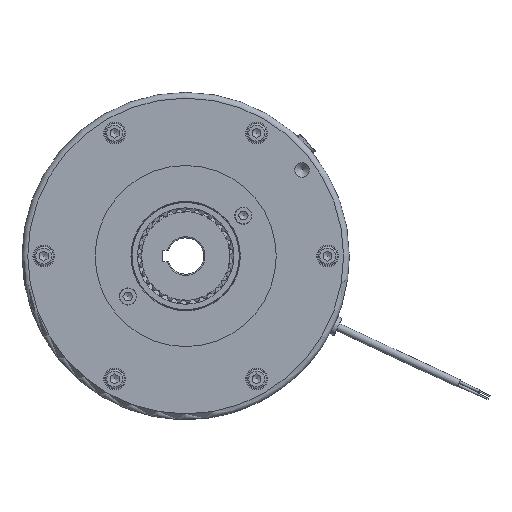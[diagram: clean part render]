
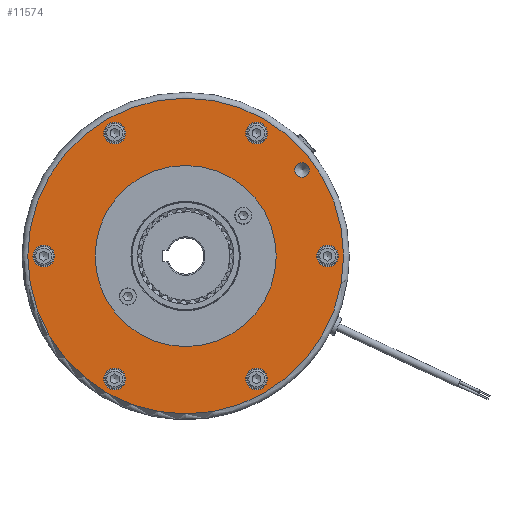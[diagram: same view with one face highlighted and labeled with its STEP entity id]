
A CAD part, left-side view. The second image highlights one B-rep face of the part: STEP entity #11574.
In plain terms, the highlighted planar face has unit normal (-1, 0, 0).
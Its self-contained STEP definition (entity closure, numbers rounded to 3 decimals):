
#798=FACE_BOUND('',#2666,.T.);
#799=FACE_BOUND('',#2667,.T.);
#800=FACE_BOUND('',#2668,.T.);
#801=FACE_BOUND('',#2669,.T.);
#802=FACE_BOUND('',#2670,.T.);
#803=FACE_BOUND('',#2671,.T.);
#804=FACE_BOUND('',#2672,.T.);
#805=FACE_BOUND('',#2673,.T.);
#1310=CIRCLE('',#12647,5.);
#1311=CIRCLE('',#12648,5.);
#1317=CIRCLE('',#12658,109.);
#1318=CIRCLE('',#12659,109.);
#1319=CIRCLE('',#12661,62.5);
#1320=CIRCLE('',#12662,62.5);
#1321=CIRCLE('',#12663,7.5);
#1322=CIRCLE('',#12664,7.5);
#1323=CIRCLE('',#12665,7.5);
#1324=CIRCLE('',#12666,7.5);
#1325=CIRCLE('',#12667,7.5);
#1326=CIRCLE('',#12668,7.5);
#1327=CIRCLE('',#12669,7.5);
#1328=CIRCLE('',#12670,7.5);
#1329=CIRCLE('',#12671,7.5);
#1330=CIRCLE('',#12672,7.5);
#1331=CIRCLE('',#12673,7.5);
#1332=CIRCLE('',#12674,7.5);
#2001=FACE_OUTER_BOUND('',#2665,.T.);
#2665=EDGE_LOOP('',(#8609,#8610));
#2666=EDGE_LOOP('',(#8611,#8612));
#2667=EDGE_LOOP('',(#8613,#8614));
#2668=EDGE_LOOP('',(#8615,#8616));
#2669=EDGE_LOOP('',(#8617,#8618));
#2670=EDGE_LOOP('',(#8619,#8620));
#2671=EDGE_LOOP('',(#8621,#8622));
#2672=EDGE_LOOP('',(#8623,#8624));
#2673=EDGE_LOOP('',(#8625,#8626));
#4756=VERTEX_POINT('',#19065);
#4757=VERTEX_POINT('',#19066);
#4762=VERTEX_POINT('',#19107);
#4763=VERTEX_POINT('',#19109);
#4764=VERTEX_POINT('',#19113);
#4765=VERTEX_POINT('',#19114);
#4766=VERTEX_POINT('',#19117);
#4767=VERTEX_POINT('',#19118);
#4768=VERTEX_POINT('',#19121);
#4769=VERTEX_POINT('',#19122);
#4770=VERTEX_POINT('',#19125);
#4771=VERTEX_POINT('',#19126);
#4772=VERTEX_POINT('',#19129);
#4773=VERTEX_POINT('',#19130);
#4774=VERTEX_POINT('',#19133);
#4775=VERTEX_POINT('',#19134);
#4776=VERTEX_POINT('',#19137);
#4777=VERTEX_POINT('',#19138);
#6166=EDGE_CURVE('',#4756,#4757,#1310,.T.);
#6167=EDGE_CURVE('',#4757,#4756,#1311,.T.);
#6177=EDGE_CURVE('',#4762,#4763,#1317,.T.);
#6178=EDGE_CURVE('',#4763,#4762,#1318,.T.);
#6179=EDGE_CURVE('',#4764,#4765,#1319,.T.);
#6180=EDGE_CURVE('',#4765,#4764,#1320,.T.);
#6181=EDGE_CURVE('',#4766,#4767,#1321,.T.);
#6182=EDGE_CURVE('',#4767,#4766,#1322,.T.);
#6183=EDGE_CURVE('',#4768,#4769,#1323,.T.);
#6184=EDGE_CURVE('',#4769,#4768,#1324,.T.);
#6185=EDGE_CURVE('',#4770,#4771,#1325,.T.);
#6186=EDGE_CURVE('',#4771,#4770,#1326,.T.);
#6187=EDGE_CURVE('',#4772,#4773,#1327,.T.);
#6188=EDGE_CURVE('',#4773,#4772,#1328,.T.);
#6189=EDGE_CURVE('',#4774,#4775,#1329,.T.);
#6190=EDGE_CURVE('',#4775,#4774,#1330,.T.);
#6191=EDGE_CURVE('',#4776,#4777,#1331,.T.);
#6192=EDGE_CURVE('',#4777,#4776,#1332,.T.);
#8609=ORIENTED_EDGE('',*,*,#6178,.F.);
#8610=ORIENTED_EDGE('',*,*,#6177,.F.);
#8611=ORIENTED_EDGE('',*,*,#6166,.T.);
#8612=ORIENTED_EDGE('',*,*,#6167,.T.);
#8613=ORIENTED_EDGE('',*,*,#6179,.T.);
#8614=ORIENTED_EDGE('',*,*,#6180,.T.);
#8615=ORIENTED_EDGE('',*,*,#6181,.T.);
#8616=ORIENTED_EDGE('',*,*,#6182,.T.);
#8617=ORIENTED_EDGE('',*,*,#6183,.T.);
#8618=ORIENTED_EDGE('',*,*,#6184,.T.);
#8619=ORIENTED_EDGE('',*,*,#6185,.T.);
#8620=ORIENTED_EDGE('',*,*,#6186,.T.);
#8621=ORIENTED_EDGE('',*,*,#6187,.T.);
#8622=ORIENTED_EDGE('',*,*,#6188,.T.);
#8623=ORIENTED_EDGE('',*,*,#6189,.T.);
#8624=ORIENTED_EDGE('',*,*,#6190,.T.);
#8625=ORIENTED_EDGE('',*,*,#6191,.T.);
#8626=ORIENTED_EDGE('',*,*,#6192,.T.);
#10557=PLANE('',#12660);
#11574=ADVANCED_FACE('',(#2001,#798,#799,#800,#801,#802,#803,#804,#805),
#10557,.T.);
#12647=AXIS2_PLACEMENT_3D('',#19067,#15007,#15008);
#12648=AXIS2_PLACEMENT_3D('',#19068,#15009,#15010);
#12658=AXIS2_PLACEMENT_3D('',#19110,#15032,#15033);
#12659=AXIS2_PLACEMENT_3D('',#19111,#15034,#15035);
#12660=AXIS2_PLACEMENT_3D('',#19112,#15036,#15037);
#12661=AXIS2_PLACEMENT_3D('',#19115,#15038,#15039);
#12662=AXIS2_PLACEMENT_3D('',#19116,#15040,#15041);
#12663=AXIS2_PLACEMENT_3D('',#19119,#15042,#15043);
#12664=AXIS2_PLACEMENT_3D('',#19120,#15044,#15045);
#12665=AXIS2_PLACEMENT_3D('',#19123,#15046,#15047);
#12666=AXIS2_PLACEMENT_3D('',#19124,#15048,#15049);
#12667=AXIS2_PLACEMENT_3D('',#19127,#15050,#15051);
#12668=AXIS2_PLACEMENT_3D('',#19128,#15052,#15053);
#12669=AXIS2_PLACEMENT_3D('',#19131,#15054,#15055);
#12670=AXIS2_PLACEMENT_3D('',#19132,#15056,#15057);
#12671=AXIS2_PLACEMENT_3D('',#19135,#15058,#15059);
#12672=AXIS2_PLACEMENT_3D('',#19136,#15060,#15061);
#12673=AXIS2_PLACEMENT_3D('',#19139,#15062,#15063);
#12674=AXIS2_PLACEMENT_3D('',#19140,#15064,#15065);
#15007=DIRECTION('center_axis',(1.,0.,0.));
#15008=DIRECTION('ref_axis',(0.,0.,1.));
#15009=DIRECTION('center_axis',(1.,0.,0.));
#15010=DIRECTION('ref_axis',(0.,0.,1.));
#15032=DIRECTION('center_axis',(1.,0.,0.));
#15033=DIRECTION('ref_axis',(0.,-1.,0.));
#15034=DIRECTION('center_axis',(1.,0.,0.));
#15035=DIRECTION('ref_axis',(0.,-1.,0.));
#15036=DIRECTION('center_axis',(-1.,0.,0.));
#15037=DIRECTION('ref_axis',(0.,0.,1.));
#15038=DIRECTION('center_axis',(1.,0.,0.));
#15039=DIRECTION('ref_axis',(0.,1.,0.));
#15040=DIRECTION('center_axis',(1.,0.,0.));
#15041=DIRECTION('ref_axis',(0.,1.,0.));
#15042=DIRECTION('center_axis',(1.,0.,0.));
#15043=DIRECTION('ref_axis',(0.,0.,1.));
#15044=DIRECTION('center_axis',(1.,0.,0.));
#15045=DIRECTION('ref_axis',(0.,0.,1.));
#15046=DIRECTION('center_axis',(1.,0.,0.));
#15047=DIRECTION('ref_axis',(0.,-0.866,0.5));
#15048=DIRECTION('center_axis',(1.,0.,0.));
#15049=DIRECTION('ref_axis',(0.,-0.866,0.5));
#15050=DIRECTION('center_axis',(1.,0.,0.));
#15051=DIRECTION('ref_axis',(0.,-0.866,-0.5));
#15052=DIRECTION('center_axis',(1.,0.,0.));
#15053=DIRECTION('ref_axis',(0.,-0.866,-0.5));
#15054=DIRECTION('center_axis',(1.,0.,0.));
#15055=DIRECTION('ref_axis',(0.,0.,-1.));
#15056=DIRECTION('center_axis',(1.,0.,0.));
#15057=DIRECTION('ref_axis',(0.,0.,-1.));
#15058=DIRECTION('center_axis',(1.,0.,0.));
#15059=DIRECTION('ref_axis',(0.,0.866,-0.5));
#15060=DIRECTION('center_axis',(1.,0.,0.));
#15061=DIRECTION('ref_axis',(0.,0.866,-0.5));
#15062=DIRECTION('center_axis',(1.,0.,0.));
#15063=DIRECTION('ref_axis',(0.,0.866,0.5));
#15064=DIRECTION('center_axis',(1.,0.,0.));
#15065=DIRECTION('ref_axis',(0.,0.866,0.5));
#19065=CARTESIAN_POINT('',(-82.8,-80.386,64.482));
#19066=CARTESIAN_POINT('',(-82.8,-80.386,54.482));
#19067=CARTESIAN_POINT('Origin',(-82.8,-80.386,59.482));
#19068=CARTESIAN_POINT('Origin',(-82.8,-80.386,59.482));
#19107=CARTESIAN_POINT('',(-82.8,0.,109.));
#19109=CARTESIAN_POINT('',(-82.8,109.,0.));
#19110=CARTESIAN_POINT('Origin',(-82.8,0.,0.));
#19111=CARTESIAN_POINT('Origin',(-82.8,0.,0.));
#19112=CARTESIAN_POINT('Origin',(-82.8,87.75,0.));
#19113=CARTESIAN_POINT('',(-82.8,62.5,0.));
#19114=CARTESIAN_POINT('',(-82.8,-62.5,0.));
#19115=CARTESIAN_POINT('Origin',(-82.8,0.,0.));
#19116=CARTESIAN_POINT('Origin',(-82.8,0.,0.));
#19117=CARTESIAN_POINT('',(-82.8,98.,7.5));
#19118=CARTESIAN_POINT('',(-82.8,98.,-7.5));
#19119=CARTESIAN_POINT('Origin',(-82.8,98.,0.));
#19120=CARTESIAN_POINT('Origin',(-82.8,98.,0.));
#19121=CARTESIAN_POINT('',(-82.8,42.505,88.62));
#19122=CARTESIAN_POINT('',(-82.8,55.495,81.12));
#19123=CARTESIAN_POINT('Origin',(-82.8,49.,84.87));
#19124=CARTESIAN_POINT('Origin',(-82.8,49.,84.87));
#19125=CARTESIAN_POINT('',(-82.8,-55.495,81.12));
#19126=CARTESIAN_POINT('',(-82.8,-42.505,88.62));
#19127=CARTESIAN_POINT('Origin',(-82.8,-49.,84.87));
#19128=CARTESIAN_POINT('Origin',(-82.8,-49.,84.87));
#19129=CARTESIAN_POINT('',(-82.8,-98.,-7.5));
#19130=CARTESIAN_POINT('',(-82.8,-98.,7.5));
#19131=CARTESIAN_POINT('Origin',(-82.8,-98.,0.));
#19132=CARTESIAN_POINT('Origin',(-82.8,-98.,0.));
#19133=CARTESIAN_POINT('',(-82.8,-42.505,-88.62));
#19134=CARTESIAN_POINT('',(-82.8,-55.495,-81.12));
#19135=CARTESIAN_POINT('Origin',(-82.8,-49.,-84.87));
#19136=CARTESIAN_POINT('Origin',(-82.8,-49.,-84.87));
#19137=CARTESIAN_POINT('',(-82.8,55.495,-81.12));
#19138=CARTESIAN_POINT('',(-82.8,42.505,-88.62));
#19139=CARTESIAN_POINT('Origin',(-82.8,49.,-84.87));
#19140=CARTESIAN_POINT('Origin',(-82.8,49.,-84.87));
